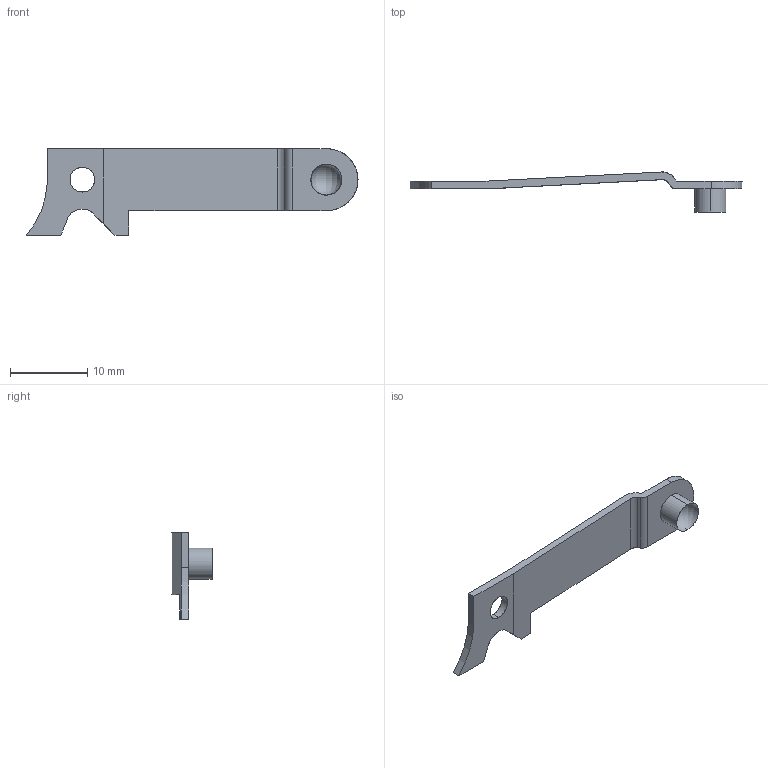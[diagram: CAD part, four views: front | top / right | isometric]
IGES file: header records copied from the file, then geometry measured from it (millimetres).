
Start section: SolidWorks IGES FILE using analytic representation for surfaces
Global section: file name: C:\Documents and Settings\lecoutey\Bureau\GP 47\30.910.10.IGS; native system: SolidWorks 2004 by SolidWorks Corporation; preprocessor: Version 5.3; author: lecoutey; date: 050329.145510; units: millimetre
Bounding box: 43 x 5.19 x 11.2 mm (x, y, z)
Surface area: 839 mm2 (no closed solid volume)
Topology: 0 solids, 0 shells, 29 faces, 312 edges, 310 vertices
Faces by surface type: bspline 16, revolution 13
